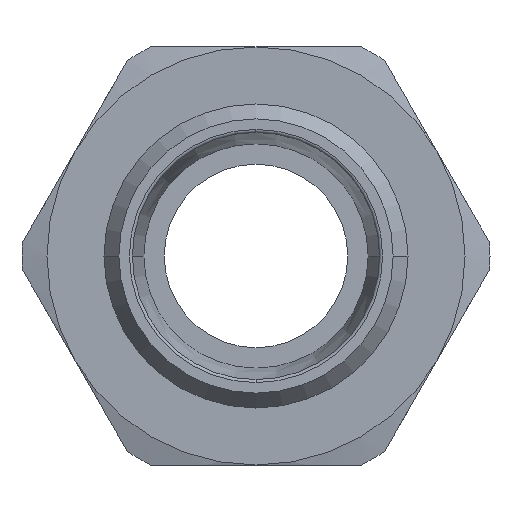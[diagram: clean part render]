
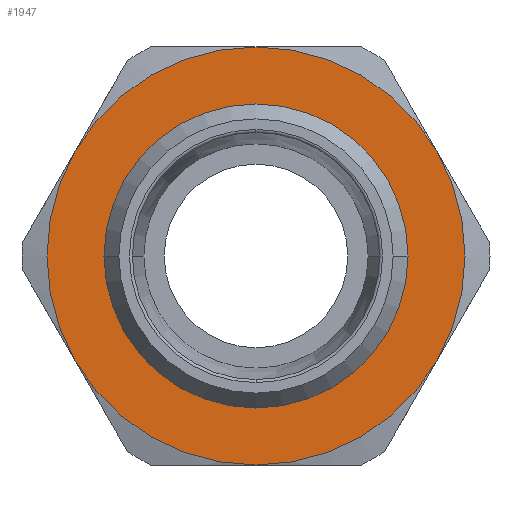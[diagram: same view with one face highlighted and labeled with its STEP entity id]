
A CAD part, left-side view. The second image highlights one B-rep face of the part: STEP entity #1947.
In plain terms, the highlighted planar face has unit normal (-1, 0, 0) as drawn and (0, 0, 1) by its records, which use the part's own axes.
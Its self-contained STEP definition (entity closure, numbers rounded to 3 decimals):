
#857=CARTESIAN_POINT('',(-14.65,0.,4.0));
#858=VERTEX_POINT('',#857);
#884=CARTESIAN_POINT('',(14.65,0.,4.0));
#885=VERTEX_POINT('',#884);
#893=CARTESIAN_POINT('',(0.,0.,4.0));
#894=DIRECTION('',(0.0,0.0,1.0));
#895=DIRECTION('',(-1.0,0.0,0.0));
#896=AXIS2_PLACEMENT_3D('',#893,#894,#895);
#897=CIRCLE('',#896,14.65);
#898=EDGE_CURVE('',#885,#858,#897,.T.);
#1827=CARTESIAN_POINT('',(0.,-14.65,4.));
#1828=VERTEX_POINT('',#1827);
#1829=CARTESIAN_POINT('',(0.,0.,4.0));
#1830=DIRECTION('',(0.0,0.0,1.0));
#1831=DIRECTION('',(-1.0,0.0,0.0));
#1832=AXIS2_PLACEMENT_3D('',#1829,#1830,#1831);
#1833=CIRCLE('',#1832,14.65);
#1834=EDGE_CURVE('',#858,#1828,#1833,.T.);
#1836=CARTESIAN_POINT('',(0.,0.,4.0));
#1837=DIRECTION('',(0.0,0.0,1.0));
#1838=DIRECTION('',(-1.0,0.0,0.0));
#1839=AXIS2_PLACEMENT_3D('',#1836,#1837,#1838);
#1840=CIRCLE('',#1839,14.65);
#1841=EDGE_CURVE('',#1828,#885,#1840,.T.);
#1881=CARTESIAN_POINT('',(0.0,0.,4.0));
#1882=DIRECTION('',(0.0,0.0,1.0));
#1883=DIRECTION('',(1.0,0.0,0.0));
#1884=AXIS2_PLACEMENT_3D('',#1881,#1882,#1883);
#1885=PLANE('',#1884);
#1886=CARTESIAN_POINT('',(10.25,-17.754,4.0));
#1887=VERTEX_POINT('',#1886);
#1888=CARTESIAN_POINT('',(20.5,0.0,4.0));
#1889=VERTEX_POINT('',#1888);
#1890=CARTESIAN_POINT('',(0.,0.0,4.0));
#1891=DIRECTION('',(0.0,0.0,1.0));
#1892=DIRECTION('',(1.0,0.0,0.0));
#1893=AXIS2_PLACEMENT_3D('',#1890,#1891,#1892);
#1894=CIRCLE('',#1893,20.5);
#1895=EDGE_CURVE('',#1887,#1889,#1894,.T.);
#1896=ORIENTED_EDGE('',*,*,#1895,.T.);
#1897=CARTESIAN_POINT('',(10.25,17.754,4.0));
#1898=VERTEX_POINT('',#1897);
#1899=CARTESIAN_POINT('',(0.,0.0,4.0));
#1900=DIRECTION('',(0.0,0.0,1.0));
#1901=DIRECTION('',(1.0,0.0,0.0));
#1902=AXIS2_PLACEMENT_3D('',#1899,#1900,#1901);
#1903=CIRCLE('',#1902,20.5);
#1904=EDGE_CURVE('',#1889,#1898,#1903,.T.);
#1905=ORIENTED_EDGE('',*,*,#1904,.T.);
#1906=CARTESIAN_POINT('',(-10.25,17.754,4.0));
#1907=VERTEX_POINT('',#1906);
#1908=CARTESIAN_POINT('',(0.,0.0,4.0));
#1909=DIRECTION('',(0.0,0.0,1.0));
#1910=DIRECTION('',(1.0,0.0,0.0));
#1911=AXIS2_PLACEMENT_3D('',#1908,#1909,#1910);
#1912=CIRCLE('',#1911,20.5);
#1913=EDGE_CURVE('',#1898,#1907,#1912,.T.);
#1914=ORIENTED_EDGE('',*,*,#1913,.T.);
#1915=CARTESIAN_POINT('',(-20.5,0.,4.0));
#1916=VERTEX_POINT('',#1915);
#1917=CARTESIAN_POINT('',(0.,0.0,4.0));
#1918=DIRECTION('',(0.0,0.0,1.0));
#1919=DIRECTION('',(1.0,0.0,0.0));
#1920=AXIS2_PLACEMENT_3D('',#1917,#1918,#1919);
#1921=CIRCLE('',#1920,20.5);
#1922=EDGE_CURVE('',#1907,#1916,#1921,.T.);
#1923=ORIENTED_EDGE('',*,*,#1922,.T.);
#1924=CARTESIAN_POINT('',(-10.25,-17.754,4.0));
#1925=VERTEX_POINT('',#1924);
#1926=CARTESIAN_POINT('',(0.,0.0,4.0));
#1927=DIRECTION('',(0.0,0.0,1.0));
#1928=DIRECTION('',(1.0,0.0,0.0));
#1929=AXIS2_PLACEMENT_3D('',#1926,#1927,#1928);
#1930=CIRCLE('',#1929,20.5);
#1931=EDGE_CURVE('',#1916,#1925,#1930,.T.);
#1932=ORIENTED_EDGE('',*,*,#1931,.T.);
#1933=CARTESIAN_POINT('',(0.,0.0,4.0));
#1934=DIRECTION('',(0.0,0.0,1.0));
#1935=DIRECTION('',(1.0,0.0,0.0));
#1936=AXIS2_PLACEMENT_3D('',#1933,#1934,#1935);
#1937=CIRCLE('',#1936,20.5);
#1938=EDGE_CURVE('',#1925,#1887,#1937,.T.);
#1939=ORIENTED_EDGE('',*,*,#1938,.T.);
#1940=EDGE_LOOP('',(#1896,#1905,#1914,#1923,#1932,#1939));
#1941=FACE_OUTER_BOUND('',#1940,.T.);
#1942=ORIENTED_EDGE('',*,*,#1841,.F.);
#1943=ORIENTED_EDGE('',*,*,#1834,.F.);
#1944=ORIENTED_EDGE('',*,*,#898,.F.);
#1945=EDGE_LOOP('',(#1942,#1943,#1944));
#1946=FACE_BOUND('',#1945,.T.);
#1947=ADVANCED_FACE('',(#1941,#1946),#1885,.T.);
